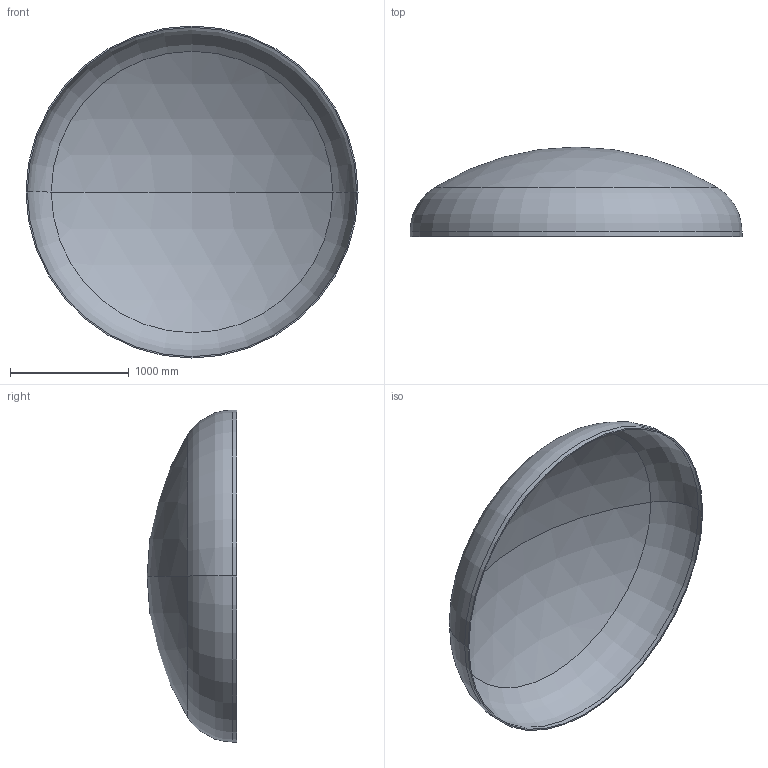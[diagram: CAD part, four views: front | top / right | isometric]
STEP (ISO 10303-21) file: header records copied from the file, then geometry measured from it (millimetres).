
FILE_DESCRIPTION (( 'STEP AP203' ), '1' );
FILE_NAME ('DIN 28013 Korbbogenform_-_Boden DIN 28013 - 2800 x 40 - I - s=11.step', '2016-07-01T16:41:46', ( '' ), ( '' ), 'SwSTEP 2.0', 'SolidWorks 2013', '' );
FILE_SCHEMA (( 'CONFIG_CONTROL_DESIGN' ));
Length unit declared in the file: millimetre
Products named in the file (1): DIN 28013 Korbbogenform_-_Boden DIN 28013 - 2800 x 40 - I - s=11
Bounding box: 2800 x 755.94 x 2800 mm (x, y, z)
Volume: 97132532.9 mm3; surface area: 17757087.8 mm2
Topology: 1 solids, 1 shells, 13 faces, 24 edges, 14 vertices
Faces by surface type: torus 4, cylinder 4, sphere 4, plane 1
Entity records: 407 total; most frequent: DIRECTION 72, CARTESIAN_POINT 52, ORIENTED_EDGE 48, AXIS2_PLACEMENT_3D 34, EDGE_CURVE 24, CIRCLE 20, VERTEX_POINT 14, EDGE_LOOP 14
